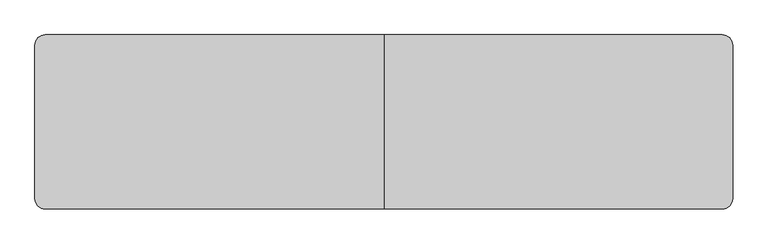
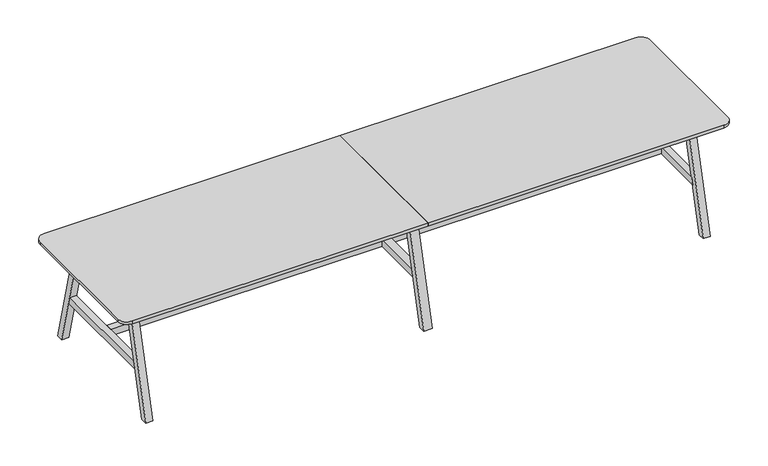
"""IFC4 building model written with IfcOpenShell, lengths in millimetres: furniture geometry, BDG_BossDesign_Tbls_AgentTables6Legs : AGE-DT-6L-4000-1000-3D."""

from ifc_helpers import new_model, si_unit, point, frame, frame_2d, origin, place, context, project, spatial, polyline, circle_curve, trimmed, segment, composite_curve, outline, extrude, source, transform, mapped, element, save


def furniture_5564a68a(model_context):
    return source(origin(), model_context, "Body", "SweptSolid", [
        extrude(outline(polyline([(500.0, 0.0), (454.9999949, 0.0), (285.5, 660.0), (330.5000051, 660.0), (500.0, 0.0)])), frame((-27.5, 0.0, 0.0), z_axis=(1.0, 0.0, 0.0), x_axis=(0.0, 1.0, 0.0)), (0.0, 0.0, 1.0), 55.0),
        extrude(outline(polyline([(-500.0, 0.0), (-330.5000051, 660.0), (-285.5, 660.0), (-454.9999949, 0.0), (-500.0, 0.0)])), frame((-27.5, 0.0, 0.0), z_axis=(1.0, 0.0, 0.0), x_axis=(0.0, 1.0, 0.0)), (0.0, 0.0, 1.0), 55.0),
        extrude(outline(polyline([(377.9545427, 300.0), (-377.9545427, 300.0), (-366.3977249, 345.0), (366.3977249, 345.0), (377.9545427, 300.0)])), frame((-27.5, 0.0, 0.0), z_axis=(1.0, 0.0, 0.0), x_axis=(0.0, 1.0, 0.0)), (0.0, 0.0, 1.0), 55.0),
        extrude(outline(composite_curve([segment(polyline([(0.0, 500.0), (0.0, -500.0), (-1940.0, -500.0)]), True, "CONTINUOUS"), segment(trimmed(circle_curve(frame_2d((-1940.0, -440.0)), 60.0), [point((-1940.0, -500.0))], [point((-2000.0, -440.0))], False, "CARTESIAN"), True, "CONTINUOUS"), segment(polyline([(-2000.0, -440.0), (-2000.0, 440.0)]), True, "CONTINUOUS"), segment(trimmed(circle_curve(frame_2d((-1940.0, 440.0)), 60.0), [point((-2000.0, 440.0))], [point((-1940.0, 500.0))], False, "CARTESIAN"), True, "CONTINUOUS"), segment(polyline([(-1940.0, 500.0), (0.0, 500.0)]), True, "CONTINUOUS")], self_intersect=False)), frame((0.0, 0.0, 722.0), z_axis=(0.0, 0.0, 1.0), x_axis=(1.0, 0.0, 0.0)), (0.0, 0.0, 1.0), 18.0),
        extrude(outline(polyline([(-366.3977249, 345.0), (366.3977249, 345.0), (377.9545427, 300.0), (-377.9545427, 300.0), (-366.3977249, 345.0)])), frame((1805.0, 0.0, 0.0), z_axis=(1.0, 0.0, 0.0), x_axis=(0.0, 1.0, 0.0)), (0.0, 0.0, 1.0), 45.0),
        extrude(outline(polyline([(500.0, 0.0), (454.9999949, 0.0), (285.5, 660.0), (330.5000051, 660.0), (500.0, 0.0)])), frame((-1850.0, 0.0, 0.0), z_axis=(1.0, 0.0, 0.0), x_axis=(0.0, 1.0, 0.0)), (0.0, 0.0, 1.0), 45.0),
        extrude(outline(polyline([(-500.0, 0.0), (-330.5000051, 660.0), (-285.5, 660.0), (-454.9999949, 0.0), (-500.0, 0.0)])), frame((-1850.0, 0.0, 0.0), z_axis=(1.0, 0.0, 0.0), x_axis=(0.0, 1.0, 0.0)), (0.0, 0.0, 1.0), 45.0),
        extrude(outline(polyline([(-366.3977249, 345.0), (366.3977249, 345.0), (377.9545427, 300.0), (-377.9545427, 300.0), (-366.3977249, 345.0)])), frame((-1850.0, 0.0, 0.0), z_axis=(1.0, 0.0, 0.0), x_axis=(0.0, 1.0, 0.0)), (0.0, 0.0, 1.0), 45.0),
        extrude(outline(polyline([(-326.6006165, 634.973938), (-304.2770691, 722.0), (-279.5, 722.0), (-301.8235474, 634.973938), (-326.6006165, 634.973938)])), frame((-1805.0, 0.0, 0.0), z_axis=(1.0, 0.0, 0.0), x_axis=(0.0, 1.0, 0.0)), (0.0, 0.0, 1.0), 3610.0),
        extrude(outline(polyline([(326.6006165, 634.973938), (301.8235474, 634.973938), (279.5, 722.0), (304.2770691, 722.0), (326.6006165, 634.973938)])), frame((-1805.0, 0.0, 0.0), z_axis=(1.0, 0.0, 0.0), x_axis=(0.0, 1.0, 0.0)), (0.0, 0.0, 1.0), 3610.0),
        extrude(outline(polyline([(499.7999878, 0.0), (454.7999827, 0.0), (285.5, 660.0), (330.5000051, 660.0), (499.7999878, 0.0)])), frame((1805.0, 0.0, 0.0), z_axis=(1.0, 0.0, 0.0), x_axis=(0.0, 1.0, 0.0)), (0.0, 0.0, 1.0), 45.0),
        extrude(outline(polyline([(-499.7999878, 0.0), (-330.5000051, 660.0), (-285.5, 660.0), (-454.7999827, 0.0), (-499.7999878, 0.0)])), frame((1805.0, 0.0, 0.0), z_axis=(1.0, 0.0, 0.0), x_axis=(0.0, 1.0, 0.0)), (0.0, 0.0, 1.0), 45.0),
        extrude(outline(polyline([(-27.5, 22.5000305), (-27.5, -22.5000305), (-1805.0, -22.5000305), (-1805.0, 22.5000305), (-27.5, 22.5000305)])), frame((0.0, 0.0, 300.0), z_axis=(0.0, 0.0, 1.0), x_axis=(1.0, 0.0, 0.0)), (0.0, 0.0, 1.0), 45.0),
        extrude(outline(polyline([(27.5, -22.5000305), (27.5, 22.5000305), (1805.0, 22.5000305), (1805.0, -22.5000305), (27.5, -22.5000305)])), frame((0.0, 0.0, 300.0), z_axis=(0.0, 0.0, 1.0), x_axis=(1.0, 0.0, 0.0)), (0.0, 0.0, 1.0), 45.0),
        extrude(outline(composite_curve([segment(trimmed(circle_curve(frame_2d((1940.0, 440.0)), 60.0), [point((1940.0, 500.0))], [point((2000.0, 440.0))], False, "CARTESIAN"), True, "CONTINUOUS"), segment(polyline([(2000.0, 440.0), (2000.0, -440.0)]), True, "CONTINUOUS"), segment(trimmed(circle_curve(frame_2d((1940.0, -440.0)), 60.0), [point((2000.0, -440.0))], [point((1940.0, -500.0))], False, "CARTESIAN"), True, "CONTINUOUS"), segment(polyline([(1940.0, -500.0), (0.0, -500.0), (0.0, 500.0), (1940.0, 500.0)]), True, "CONTINUOUS")], self_intersect=False)), frame((0.0, 0.0, 722.0), z_axis=(0.0, 0.0, 1.0), x_axis=(1.0, 0.0, 0.0)), (0.0, 0.0, 1.0), 18.0),
    ])


if __name__ == "__main__":
    model = new_model("IFC4")
    model_context = context("Model", 3, world=origin())
    ifc_project = project(units=[si_unit("LENGTHUNIT", "METRE", prefix="MILLI")], contexts=[model_context])
    site = spatial("IfcSite", under=ifc_project)
    building = spatial("IfcBuilding", under=site)
    placement = place(None, origin())
    furniture_shape = furniture_5564a68a(model_context)
    element("IfcFurniture", 1, ObjectType="BDG_BossDesign_Tbls_AgentTables6Legs : AGE-DT-6L-4000-1000-3D", at=placement, inside=building, context=model_context, shape_type="MappedRepresentation", body=[
        mapped(furniture_shape, transform((0.0, 0.0, 0.0), x_axis=(1.0, 0.0, 0.0), y_axis=(0.0, 1.0, 0.0), z_axis=(0.0, 0.0, 1.0))),
    ])
    save(model, "model.ifc")
